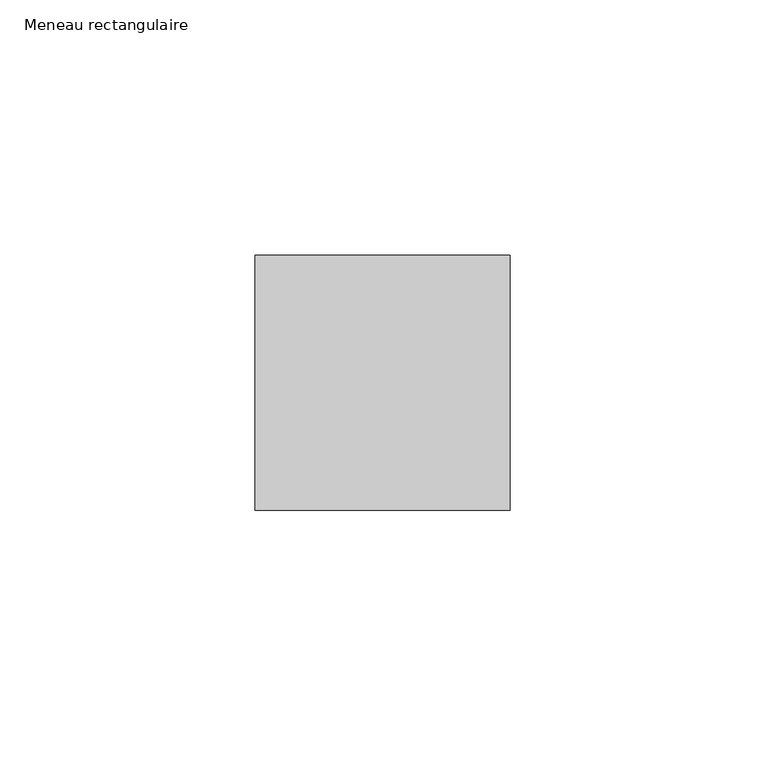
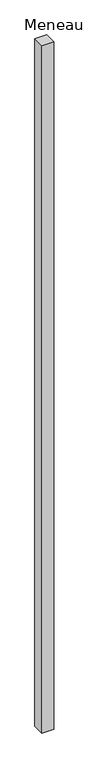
"""IFC4 building model written with IfcOpenShell, lengths in millimetres: member geometry, Meneau rectangulaire : 5x5cm aluminium laqué gris foncé."""

from ifc_helpers import new_model, si_unit, frame, origin, place, context, project, spatial, polyline, outline, extrude, source, transform, mapped, element, save


def meneau_rectangulaire_3428490f(model_context):
    return source(origin(), model_context, "Body", "SweptSolid", [
        extrude(outline(polyline([(25.0, 25.0), (25.0, -25.0), (-25.0, -25.0), (-25.0, 25.0), (25.0, 25.0)])), frame((0.0, 0.0, -3030.2096551), z_axis=(0.0, 0.0, 1.0), x_axis=(1.0, 0.0, 0.0)), (0.0, 0.0, 1.0), 3030.2096551),
    ])


if __name__ == "__main__":
    model = new_model("IFC4")
    model_context = context("Model", 3, world=origin())
    ifc_project = project(units=[si_unit("LENGTHUNIT", "METRE", prefix="MILLI")], contexts=[model_context])
    site = spatial("IfcSite", under=ifc_project)
    building = spatial("IfcBuilding", under=site)
    placement = place(None, origin())
    meneau_rectangulaire_shape = meneau_rectangulaire_3428490f(model_context)
    element("IfcMember", 1, ObjectType="Meneau rectangulaire : 5x5cm aluminium laqué gris foncé", at=placement, inside=building, context=model_context, shape_type="MappedRepresentation", body=[
        mapped(meneau_rectangulaire_shape, transform((0.0, 0.0, 0.0), x_axis=(1.0, 0.0, 0.0), y_axis=(0.0, 1.0, 0.0), z_axis=(0.0, 0.0, 1.0))),
    ])
    save(model, "model.ifc")
